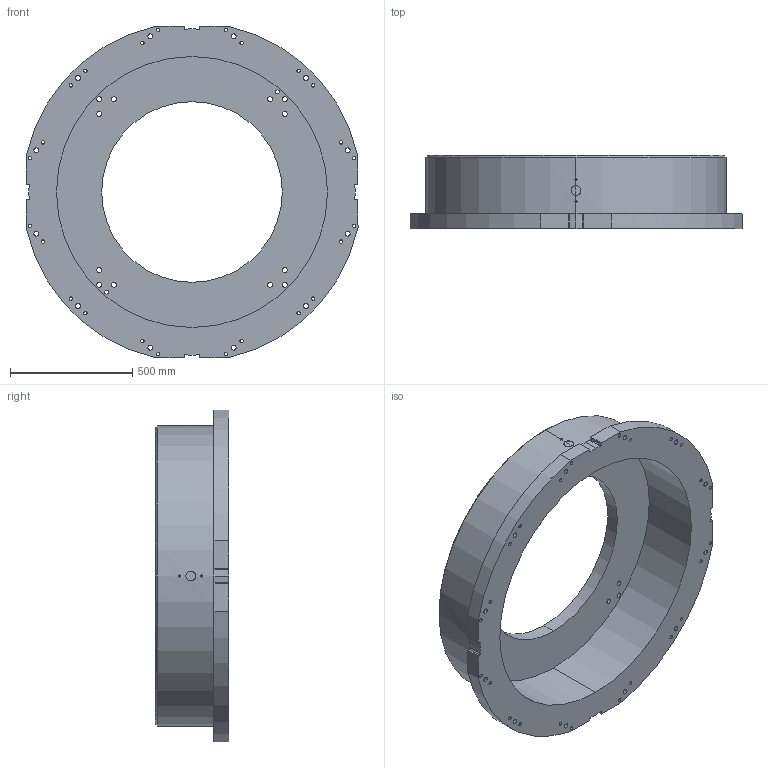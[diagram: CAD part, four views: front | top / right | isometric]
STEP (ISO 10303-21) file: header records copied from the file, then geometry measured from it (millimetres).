
FILE_DESCRIPTION (( 'STEP AP214' ), '1' );
FILE_NAME ('T-300.STEP', '2024-01-24T12:05:23', ( '' ), ( '' ), 'SwSTEP 2.0', 'SolidWorks 2022', '' );
FILE_SCHEMA (( 'AUTOMOTIVE_DESIGN' ));
Length unit declared in the file: millimetre
Products named in the file (1): T-300
Bounding box: 1360 x 300 x 1360 mm (x, y, z)
Volume: 114313470.3 mm3; surface area: 4438112.9 mm2
Topology: 1 solids, 1 shells, 195 faces, 553 edges, 368 vertices
Faces by surface type: cylinder 157, plane 28, bspline 8, cone 2
Entity records: 9791 total; most frequent: CARTESIAN_POINT 3396, DIRECTION 1109, ORIENTED_EDGE 1106, EDGE_CURVE 553, AXIS2_PLACEMENT_3D 442, VERTEX_POINT 368, EDGE_LOOP 305, CIRCLE 254
